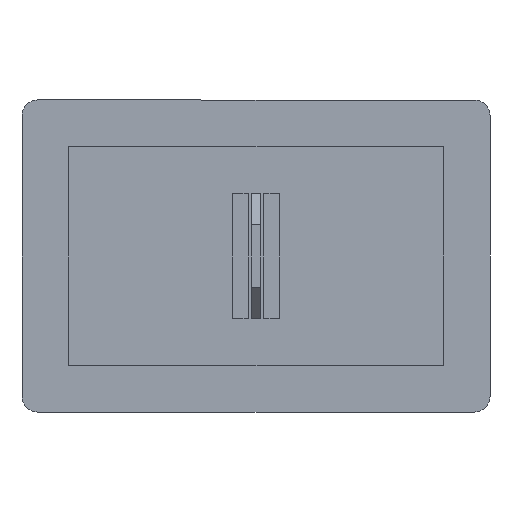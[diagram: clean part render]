
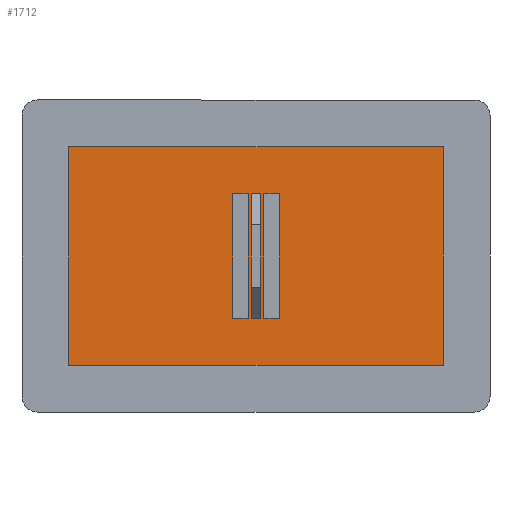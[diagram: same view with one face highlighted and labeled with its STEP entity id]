
A CAD part, left-side view. The second image highlights one B-rep face of the part: STEP entity #1712.
In plain terms, the highlighted planar face has unit normal (-1, 0, 0).
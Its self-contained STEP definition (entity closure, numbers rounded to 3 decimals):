
#21 = CARTESIAN_POINT ( 'NONE',  ( 0., -0.25, -2. ) ) ;
#40 = EDGE_LOOP ( 'NONE', ( #927, #2148, #1629, #1467 ) ) ;
#49 = VERTEX_POINT ( 'NONE', #1032 ) ;
#71 = CARTESIAN_POINT ( 'NONE',  ( 0., -6., 3.5 ) ) ;
#85 = DIRECTION ( 'NONE',  ( 1., 0., 0. ) ) ;
#99 = VERTEX_POINT ( 'NONE', #71 ) ;
#158 = VECTOR ( 'NONE', #728, 1000. ) ;
#162 = ORIENTED_EDGE ( 'NONE', *, *, #568, .F. ) ;
#167 = ORIENTED_EDGE ( 'NONE', *, *, #750, .F. ) ;
#198 = DIRECTION ( 'NONE',  ( 0., 1., 0. ) ) ;
#250 = CARTESIAN_POINT ( 'NONE',  ( 0., 0.15, 2. ) ) ;
#276 = PLANE ( 'NONE',  #2211 ) ;
#325 = LINE ( 'NONE', #2279, #158 ) ;
#326 = VECTOR ( 'NONE', #1975, 1000. ) ;
#360 = CARTESIAN_POINT ( 'NONE',  ( 0., 0.25, -2. ) ) ;
#371 = VERTEX_POINT ( 'NONE', #2536 ) ;
#378 = EDGE_CURVE ( 'NONE', #2498, #995, #2357, .T. ) ;
#400 = VECTOR ( 'NONE', #795, 1000. ) ;
#428 = CARTESIAN_POINT ( 'NONE',  ( 0., 0.25, 2. ) ) ;
#439 = VERTEX_POINT ( 'NONE', #2392 ) ;
#459 = LINE ( 'NONE', #472, #1759 ) ;
#472 = CARTESIAN_POINT ( 'NONE',  ( 0., 0.75, -2. ) ) ;
#473 = FACE_BOUND ( 'NONE', #2186, .T. ) ;
#508 = EDGE_CURVE ( 'NONE', #995, #371, #459, .T. ) ;
#518 = VERTEX_POINT ( 'NONE', #1061 ) ;
#522 = EDGE_CURVE ( 'NONE', #518, #1084, #1844, .T. ) ;
#549 = CARTESIAN_POINT ( 'NONE',  ( 0., 0.75, 2. ) ) ;
#568 = EDGE_CURVE ( 'NONE', #439, #935, #1730, .T. ) ;
#574 = DIRECTION ( 'NONE',  ( 0., -1., 0. ) ) ;
#600 = CARTESIAN_POINT ( 'NONE',  ( 0., 0.75, 2. ) ) ;
#604 = ORIENTED_EDGE ( 'NONE', *, *, #2500, .F. ) ;
#631 = CARTESIAN_POINT ( 'NONE',  ( 0., 0.15, -2. ) ) ;
#641 = LINE ( 'NONE', #2012, #864 ) ;
#650 = EDGE_CURVE ( 'NONE', #2008, #1322, #2499, .T. ) ;
#668 = EDGE_CURVE ( 'NONE', #1322, #2233, #2147, .T. ) ;
#691 = CARTESIAN_POINT ( 'NONE',  ( 0., 0., 0. ) ) ;
#703 = EDGE_CURVE ( 'NONE', #371, #1239, #988, .T. ) ;
#705 = CARTESIAN_POINT ( 'NONE',  ( 0., -0.75, 2. ) ) ;
#728 = DIRECTION ( 'NONE',  ( 0., -1., 0. ) ) ;
#750 = EDGE_CURVE ( 'NONE', #935, #2471, #1370, .T. ) ;
#768 = DIRECTION ( 'NONE',  ( 0., -1., 0. ) ) ;
#788 = CARTESIAN_POINT ( 'NONE',  ( 0., 0.15, -2. ) ) ;
#795 = DIRECTION ( 'NONE',  ( 0., 0., 1. ) ) ;
#801 = DIRECTION ( 'NONE',  ( 0., -1., 0. ) ) ;
#803 = DIRECTION ( 'NONE',  ( 0., 0., 1. ) ) ;
#864 = VECTOR ( 'NONE', #801, 1000. ) ;
#876 = CARTESIAN_POINT ( 'NONE',  ( 0., 0.25, -2. ) ) ;
#909 = ORIENTED_EDGE ( 'NONE', *, *, #985, .F. ) ;
#927 = ORIENTED_EDGE ( 'NONE', *, *, #378, .F. ) ;
#935 = VERTEX_POINT ( 'NONE', #1621 ) ;
#947 = VECTOR ( 'NONE', #1952, 1000. ) ;
#972 = CARTESIAN_POINT ( 'NONE',  ( 0., 6., 3.5 ) ) ;
#985 = EDGE_CURVE ( 'NONE', #1571, #49, #325, .T. ) ;
#988 = LINE ( 'NONE', #2327, #1516 ) ;
#995 = VERTEX_POINT ( 'NONE', #549 ) ;
#1032 = CARTESIAN_POINT ( 'NONE',  ( 0., -0.15, -2. ) ) ;
#1060 = VERTEX_POINT ( 'NONE', #705 ) ;
#1061 = CARTESIAN_POINT ( 'NONE',  ( 0., -0.15, 2. ) ) ;
#1074 = ORIENTED_EDGE ( 'NONE', *, *, #1715, .F. ) ;
#1078 = ORIENTED_EDGE ( 'NONE', *, *, #522, .F. ) ;
#1084 = VERTEX_POINT ( 'NONE', #2494 ) ;
#1129 = ORIENTED_EDGE ( 'NONE', *, *, #1762, .F. ) ;
#1171 = ORIENTED_EDGE ( 'NONE', *, *, #1200, .F. ) ;
#1198 = LINE ( 'NONE', #631, #326 ) ;
#1200 = EDGE_CURVE ( 'NONE', #1060, #2008, #1201, .T. ) ;
#1201 = LINE ( 'NONE', #2364, #2455 ) ;
#1239 = VERTEX_POINT ( 'NONE', #360 ) ;
#1243 = DIRECTION ( 'NONE',  ( 0., 1., 0. ) ) ;
#1269 = ORIENTED_EDGE ( 'NONE', *, *, #668, .F. ) ;
#1272 = VECTOR ( 'NONE', #198, 1000. ) ;
#1314 = VECTOR ( 'NONE', #2189, 1000. ) ;
#1322 = VERTEX_POINT ( 'NONE', #2209 ) ;
#1341 = EDGE_CURVE ( 'NONE', #2233, #1060, #1630, .T. ) ;
#1356 = VECTOR ( 'NONE', #803, 1000. ) ;
#1370 = LINE ( 'NONE', #972, #400 ) ;
#1430 = CARTESIAN_POINT ( 'NONE',  ( 0., -0.75, -2. ) ) ;
#1438 = FACE_OUTER_BOUND ( 'NONE', #2134, .T. ) ;
#1467 = ORIENTED_EDGE ( 'NONE', *, *, #508, .F. ) ;
#1471 = VECTOR ( 'NONE', #1908, 1000. ) ;
#1474 = LINE ( 'NONE', #2170, #1356 ) ;
#1493 = CARTESIAN_POINT ( 'NONE',  ( 0., -0.75, -2. ) ) ;
#1500 = CARTESIAN_POINT ( 'NONE',  ( 0., 6., -3.5 ) ) ;
#1513 = ORIENTED_EDGE ( 'NONE', *, *, #1341, .F. ) ;
#1516 = VECTOR ( 'NONE', #574, 1000. ) ;
#1527 = CARTESIAN_POINT ( 'NONE',  ( 0., -0.25, -2. ) ) ;
#1571 = VERTEX_POINT ( 'NONE', #788 ) ;
#1621 = CARTESIAN_POINT ( 'NONE',  ( 0., 6., -3.5 ) ) ;
#1625 = LINE ( 'NONE', #2219, #1314 ) ;
#1629 = ORIENTED_EDGE ( 'NONE', *, *, #703, .F. ) ;
#1630 = LINE ( 'NONE', #1493, #2416 ) ;
#1632 = EDGE_CURVE ( 'NONE', #1239, #2498, #2023, .T. ) ;
#1635 = VECTOR ( 'NONE', #768, 1000. ) ;
#1641 = DIRECTION ( 'NONE',  ( 0., 0., -1. ) ) ;
#1643 = DIRECTION ( 'NONE',  ( 0., 0., 1. ) ) ;
#1654 = DIRECTION ( 'NONE',  ( 0., 0., -1. ) ) ;
#1669 = ORIENTED_EDGE ( 'NONE', *, *, #650, .F. ) ;
#1712 = ADVANCED_FACE ( 'NONE', ( #1822, #1438, #2229, #473 ), #276, .F. ) ;
#1715 = EDGE_CURVE ( 'NONE', #49, #518, #1474, .T. ) ;
#1730 = LINE ( 'NONE', #1500, #1471 ) ;
#1759 = VECTOR ( 'NONE', #1641, 1000. ) ;
#1762 = EDGE_CURVE ( 'NONE', #1084, #1571, #1198, .T. ) ;
#1822 = FACE_BOUND ( 'NONE', #1862, .T. ) ;
#1844 = LINE ( 'NONE', #250, #2497 ) ;
#1862 = EDGE_LOOP ( 'NONE', ( #1171, #1513, #1269, #1669 ) ) ;
#1908 = DIRECTION ( 'NONE',  ( 0., 1., 0. ) ) ;
#1951 = DIRECTION ( 'NONE',  ( 0., 1., 0. ) ) ;
#1952 = DIRECTION ( 'NONE',  ( 0., 0., -1. ) ) ;
#1975 = DIRECTION ( 'NONE',  ( 0., 0., -1. ) ) ;
#2008 = VERTEX_POINT ( 'NONE', #2265 ) ;
#2012 = CARTESIAN_POINT ( 'NONE',  ( 0., 6., 3.5 ) ) ;
#2023 = LINE ( 'NONE', #876, #2417 ) ;
#2134 = EDGE_LOOP ( 'NONE', ( #162, #2492, #604, #167 ) ) ;
#2147 = LINE ( 'NONE', #21, #1635 ) ;
#2148 = ORIENTED_EDGE ( 'NONE', *, *, #1632, .F. ) ;
#2170 = CARTESIAN_POINT ( 'NONE',  ( 0., -0.15, -2. ) ) ;
#2186 = EDGE_LOOP ( 'NONE', ( #1078, #1074, #909, #1129 ) ) ;
#2189 = DIRECTION ( 'NONE',  ( 0., 0., -1. ) ) ;
#2209 = CARTESIAN_POINT ( 'NONE',  ( 0., -0.25, -2. ) ) ;
#2211 = AXIS2_PLACEMENT_3D ( 'NONE', #691, #85, #1654 ) ;
#2219 = CARTESIAN_POINT ( 'NONE',  ( 0., -6., 3.5 ) ) ;
#2229 = FACE_BOUND ( 'NONE', #40, .T. ) ;
#2233 = VERTEX_POINT ( 'NONE', #1430 ) ;
#2265 = CARTESIAN_POINT ( 'NONE',  ( 0., -0.25, 2. ) ) ;
#2279 = CARTESIAN_POINT ( 'NONE',  ( 0., 0.15, -2. ) ) ;
#2327 = CARTESIAN_POINT ( 'NONE',  ( 0., 0.75, -2. ) ) ;
#2357 = LINE ( 'NONE', #600, #1272 ) ;
#2364 = CARTESIAN_POINT ( 'NONE',  ( 0., -0.25, 2. ) ) ;
#2383 = CARTESIAN_POINT ( 'NONE',  ( 0., 6., 3.5 ) ) ;
#2392 = CARTESIAN_POINT ( 'NONE',  ( 0., -6., -3.5 ) ) ;
#2415 = DIRECTION ( 'NONE',  ( 0., 0., 1. ) ) ;
#2416 = VECTOR ( 'NONE', #2415, 1000. ) ;
#2417 = VECTOR ( 'NONE', #1643, 1000. ) ;
#2455 = VECTOR ( 'NONE', #1951, 1000. ) ;
#2471 = VERTEX_POINT ( 'NONE', #2383 ) ;
#2482 = EDGE_CURVE ( 'NONE', #99, #439, #1625, .T. ) ;
#2492 = ORIENTED_EDGE ( 'NONE', *, *, #2482, .F. ) ;
#2494 = CARTESIAN_POINT ( 'NONE',  ( 0., 0.15, 2. ) ) ;
#2497 = VECTOR ( 'NONE', #1243, 1000. ) ;
#2498 = VERTEX_POINT ( 'NONE', #428 ) ;
#2499 = LINE ( 'NONE', #1527, #947 ) ;
#2500 = EDGE_CURVE ( 'NONE', #2471, #99, #641, .T. ) ;
#2536 = CARTESIAN_POINT ( 'NONE',  ( 0., 0.75, -2. ) ) ;
